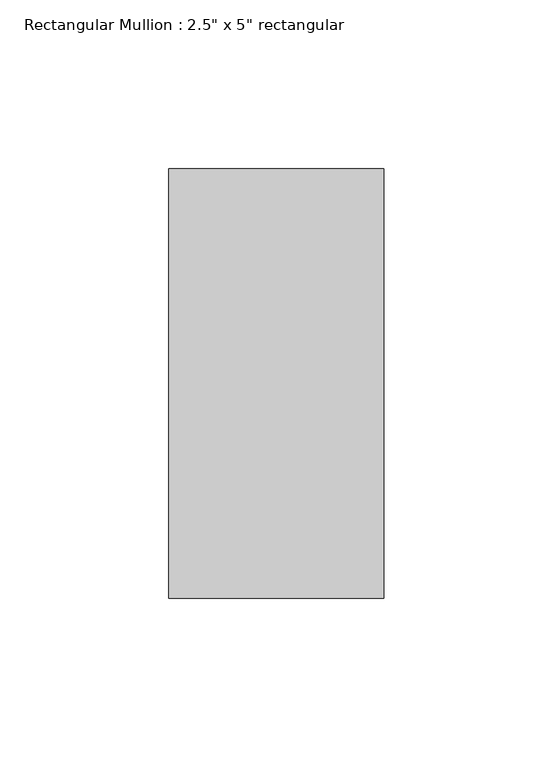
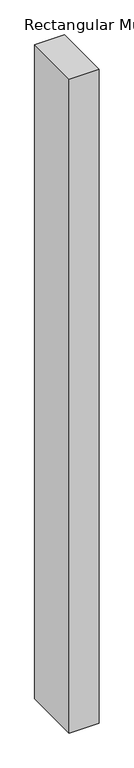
"""IFC4 building model written with IfcOpenShell, lengths in millimetres: member geometry."""

from ifc_helpers import new_model, si_unit, frame, origin, place, context, project, spatial, polyline, outline, extrude, source, transform, mapped, element, save


def member_db72e543(model_context):
    return source(origin(), model_context, "Body", "SweptSolid", [
        extrude(outline(polyline([(0.0, 63.5), (0.0, -63.5), (-63.5, -63.5), (-63.5, 63.5), (0.0, 63.5)])), frame((0.0, 0.0, -1466.85), z_axis=(0.0, 0.0, 1.0), x_axis=(1.0, 0.0, 0.0)), (0.0, 0.0, 1.0), 1466.85),
    ])


if __name__ == "__main__":
    model = new_model("IFC4")
    model_context = context("Model", 3, world=origin())
    ifc_project = project(units=[si_unit("LENGTHUNIT", "METRE", prefix="MILLI")], contexts=[model_context])
    site = spatial("IfcSite", under=ifc_project)
    building = spatial("IfcBuilding", under=site)
    placement = place(None, origin())
    member_shape = member_db72e543(model_context)
    element("IfcMember", 1, ObjectType="Rectangular Mullion : 2.5\" x 5\" rectangular", at=placement, inside=building, context=model_context, shape_type="MappedRepresentation", body=[
        mapped(member_shape, transform((0.0, 0.0, 0.0), x_axis=(1.0, 0.0, 0.0), y_axis=(0.0, 1.0, 0.0), z_axis=(0.0, 0.0, 1.0))),
    ])
    save(model, "model.ifc")
